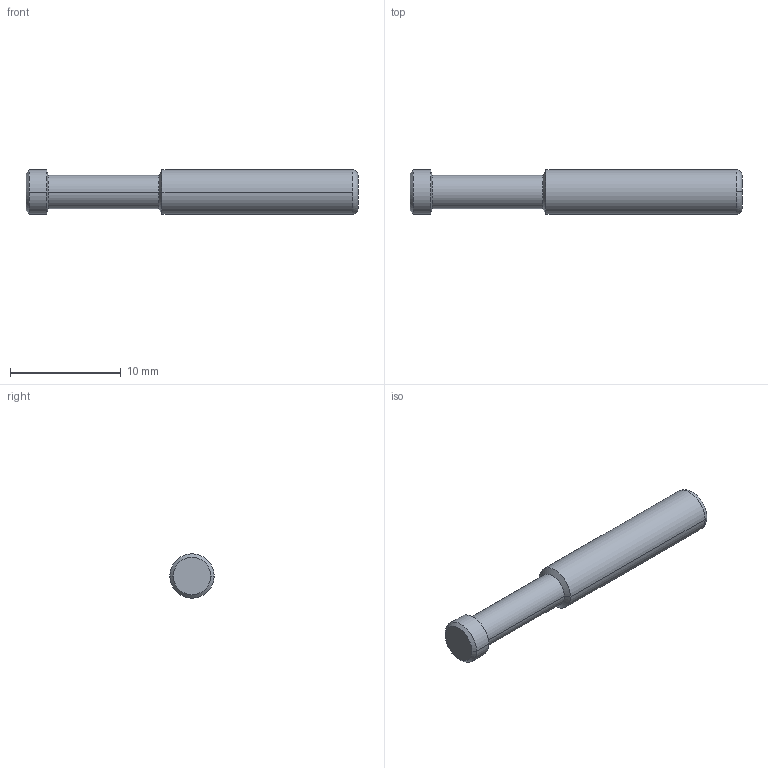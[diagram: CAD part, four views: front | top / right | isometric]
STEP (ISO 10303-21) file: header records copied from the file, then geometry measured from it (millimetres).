
FILE_DESCRIPTION (( 'STEP AP203' ), '1' );
FILE_NAME ('FP04-00.STEP', '2020-05-13T10:48:50', ( '' ), ( '' ), 'SwSTEP 2.0', 'SolidWorks 2019', '' );
FILE_SCHEMA (( 'CONFIG_CONTROL_DESIGN' ));
Length unit declared in the file: millimetre
Products named in the file (1): FP04-00
Bounding box: 30 x 4 x 4 mm (x, y, z)
Volume: 319.6 mm3; surface area: 372.3 mm2
Topology: 1 solids, 1 shells, 16 faces, 32 edges, 18 vertices
Faces by surface type: cylinder 6, cone 6, torus 2, plane 2
Entity records: 493 total; most frequent: DIRECTION 86, CARTESIAN_POINT 67, ORIENTED_EDGE 64, AXIS2_PLACEMENT_3D 37, EDGE_CURVE 32, CIRCLE 20, VERTEX_POINT 18, EDGE_LOOP 16
